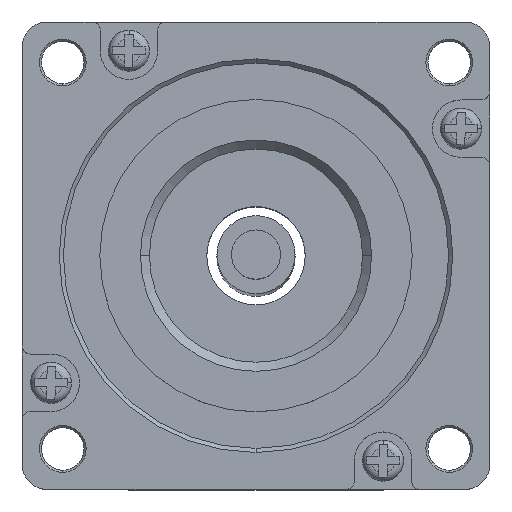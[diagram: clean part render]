
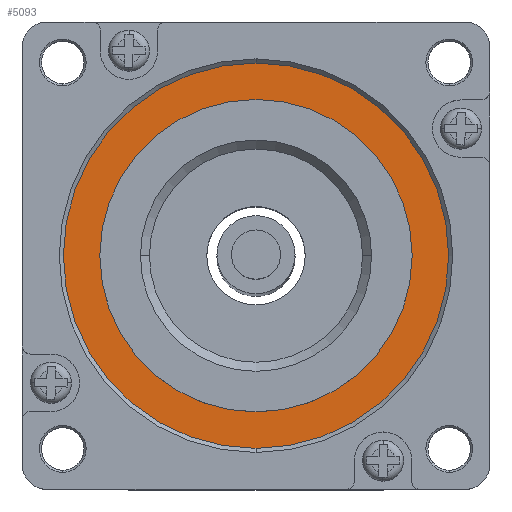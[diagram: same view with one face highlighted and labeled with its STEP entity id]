
A CAD part, top view. The second image highlights one B-rep face of the part: STEP entity #5093.
In plain terms, the highlighted planar face has unit normal (0, 0, 1).
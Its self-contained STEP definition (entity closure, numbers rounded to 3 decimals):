
#289 = DIRECTION ( 'NONE',  ( 0., -1., 0. ) ) ;
#453 = DIRECTION ( 'NONE',  ( 0., -1., 0. ) ) ;
#905 = AXIS2_PLACEMENT_3D ( 'NONE', #7583, #6215, #2048 ) ;
#923 = CIRCLE ( 'NONE', #6472, 19.05 ) ;
#1491 = AXIS2_PLACEMENT_3D ( 'NONE', #8641, #4478, #289 ) ;
#1808 = VERTEX_POINT ( 'NONE', #3186 ) ;
#2048 = DIRECTION ( 'NONE',  ( 1., 0., 0. ) ) ;
#2402 = CARTESIAN_POINT ( 'NONE',  ( 0., 0., -2.1 ) ) ;
#2792 = EDGE_CURVE ( 'NONE', #2876, #5635, #4132, .T. ) ;
#2876 = VERTEX_POINT ( 'NONE', #8166 ) ;
#3047 = EDGE_CURVE ( 'NONE', #7427, #1808, #4881, .T. ) ;
#3186 = CARTESIAN_POINT ( 'NONE',  ( 0., -19.05, -2.1 ) ) ;
#3201 = CARTESIAN_POINT ( 'NONE',  ( 0., -23.5, -2.1 ) ) ;
#3550 = ORIENTED_EDGE ( 'NONE', *, *, #3047, .T. ) ;
#3803 = DIRECTION ( 'NONE',  ( 0., 0., -1. ) ) ;
#4013 = EDGE_CURVE ( 'NONE', #5635, #2876, #6299, .T. ) ;
#4132 = CIRCLE ( 'NONE', #7875, 23.5 ) ;
#4295 = ORIENTED_EDGE ( 'NONE', *, *, #8337, .T. ) ;
#4446 = ORIENTED_EDGE ( 'NONE', *, *, #2792, .T. ) ;
#4478 = DIRECTION ( 'NONE',  ( 0., 0., 1. ) ) ;
#4635 = DIRECTION ( 'NONE',  ( 0., 0., -1. ) ) ;
#4799 = DIRECTION ( 'NONE',  ( 0., 0., 1. ) ) ;
#4881 = CIRCLE ( 'NONE', #7234, 19.05 ) ;
#5093 = ADVANCED_FACE ( 'NONE', ( #6048, #7692 ), #6182, .T. ) ;
#5635 = VERTEX_POINT ( 'NONE', #3201 ) ;
#5812 = DIRECTION ( 'NONE',  ( 0., -1., 0. ) ) ;
#6048 = FACE_OUTER_BOUND ( 'NONE', #8184, .T. ) ;
#6182 = PLANE ( 'NONE',  #905 ) ;
#6215 = DIRECTION ( 'NONE',  ( 0., 0., 1. ) ) ;
#6299 = CIRCLE ( 'NONE', #1491, 23.5 ) ;
#6472 = AXIS2_PLACEMENT_3D ( 'NONE', #8799, #4635, #453 ) ;
#6525 = EDGE_LOOP ( 'NONE', ( #4295, #3550 ) ) ;
#7234 = AXIS2_PLACEMENT_3D ( 'NONE', #2402, #3803, #7707 ) ;
#7386 = CARTESIAN_POINT ( 'NONE',  ( 0., 0., -2.1 ) ) ;
#7427 = VERTEX_POINT ( 'NONE', #9069 ) ;
#7583 = CARTESIAN_POINT ( 'NONE',  ( 0., 0., -2.1 ) ) ;
#7632 = ORIENTED_EDGE ( 'NONE', *, *, #4013, .T. ) ;
#7692 = FACE_BOUND ( 'NONE', #6525, .T. ) ;
#7707 = DIRECTION ( 'NONE',  ( 0., -1., 0. ) ) ;
#7875 = AXIS2_PLACEMENT_3D ( 'NONE', #7386, #4799, #5812 ) ;
#8166 = CARTESIAN_POINT ( 'NONE',  ( 0., 23.5, -2.1 ) ) ;
#8184 = EDGE_LOOP ( 'NONE', ( #7632, #4446 ) ) ;
#8337 = EDGE_CURVE ( 'NONE', #1808, #7427, #923, .T. ) ;
#8641 = CARTESIAN_POINT ( 'NONE',  ( 0., 0., -2.1 ) ) ;
#8799 = CARTESIAN_POINT ( 'NONE',  ( 0., 0., -2.1 ) ) ;
#9069 = CARTESIAN_POINT ( 'NONE',  ( 0., 19.05, -2.1 ) ) ;
